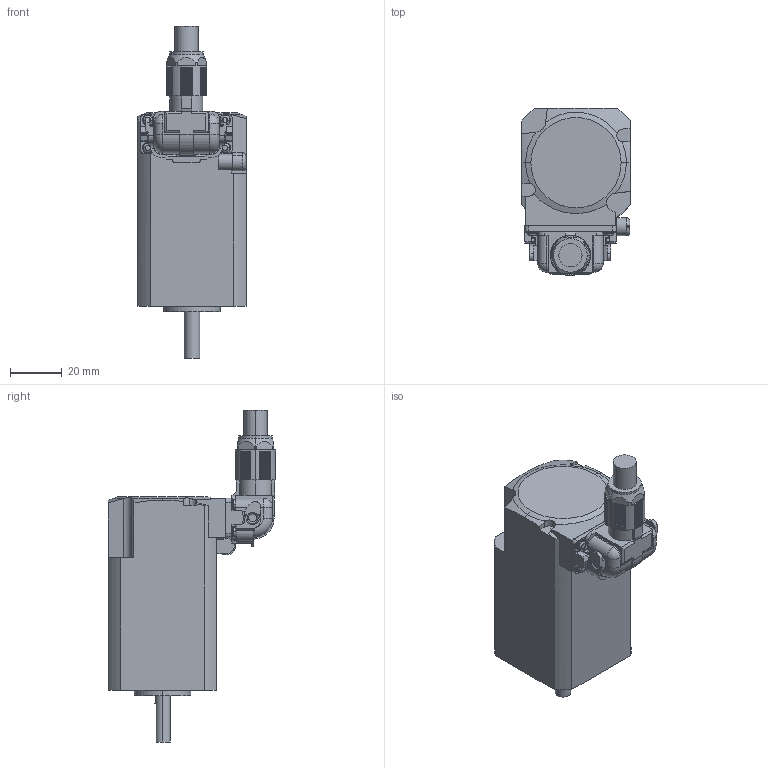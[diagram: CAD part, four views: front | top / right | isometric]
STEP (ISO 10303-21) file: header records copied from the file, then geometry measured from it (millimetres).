
FILE_DESCRIPTION (( 'STEP AP203' ), '1' );
FILE_NAME ('B1542_B.STEP', '2021-12-10T08:16:32', ( '' ), ( '' ), 'SwSTEP 2.0', 'SolidWorks 2020', '' );
FILE_SCHEMA (( 'CONFIG_CONTROL_DESIGN' ));
Length unit declared in the file: millimetre
Products named in the file (1): B1542_B
Bounding box: 42 x 64.8 x 128.7 mm (x, y, z)
Volume: 141156.4 mm3; surface area: 20855.5 mm2
Topology: 1 solids, 1 shells, 577 faces, 1609 edges, 1040 vertices
Faces by surface type: plane 338, cylinder 202, torus 19, cone 16, sphere 2
Entity records: 18757 total; most frequent: CARTESIAN_POINT 3612, ORIENTED_EDGE 3198, DIRECTION 3189, EDGE_CURVE 1599, AXIS2_PLACEMENT_3D 1075, VERTEX_POINT 1040, VECTOR 1039, LINE 1039
